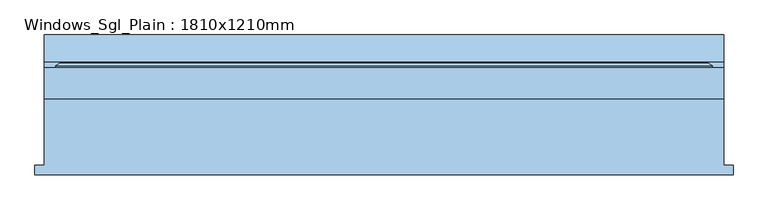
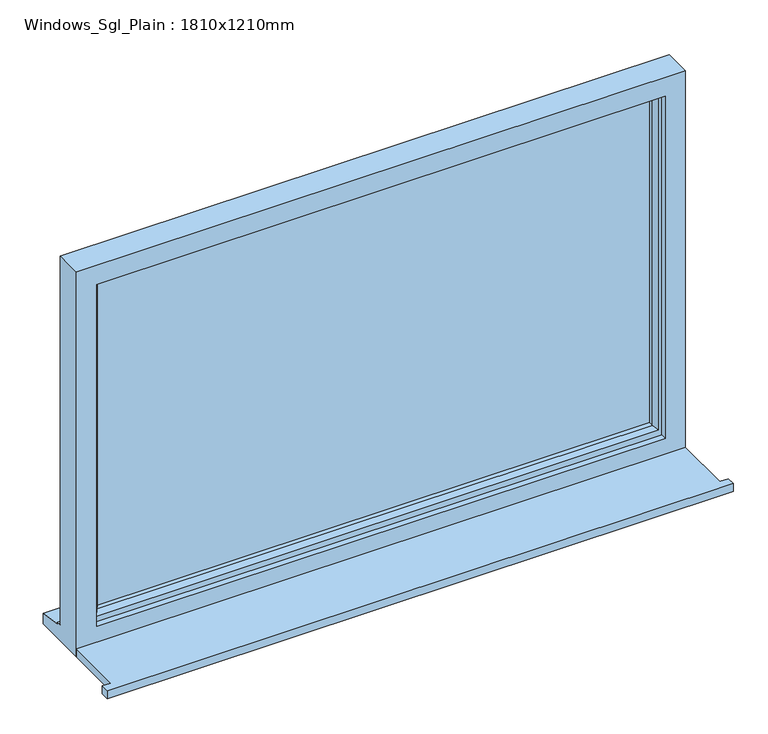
"""IFC4 building model written with IfcOpenShell, lengths in millimetres: window geometry, Windows_Sgl_Plain : 1810x1210mm."""

import ifcopenshell
import ifcopenshell.guid

model = None  # the IFC model being written
_history = None  # IfcOwnerHistory: only IFC2X3 demands one
_inside = {}  # id of a spatial element -> (the spatial element, [elements in it])
_under = {}  # id of a project, library or spatial element -> (it, [spatial elements below it])
_declared = {}  # id of a project -> (the project, [libraries it declares])
_typed = {}  # id of a type object -> (the type object, [elements of that type])
_made_of = {}  # id of a material, layer set ... -> (it, [elements and type objects made of it])


def new_model(schema):
    """Start an empty IFC model of exactly this schema.

    Asked for "IFC4X3", IfcOpenShell would pick the latest addendum, in which some entities
    have other attributes; the version numbers below select the first issue.
    IFC2X3 requires an IfcOwnerHistory on every rooted entity: one is made here for all.
    """
    global model, _history
    if schema == "IFC4X3":
        model = ifcopenshell.file(schema_version=(4, 3, 0, 0))
    else:
        model = ifcopenshell.file(schema=schema)
    _inside.clear()
    _under.clear()
    _declared.clear()
    _typed.clear()
    _made_of.clear()
    _history = None
    if model.schema == "IFC2X3":
        org = make("IfcOrganization", Name="unknown")
        user = make(
            "IfcPersonAndOrganization",
            ThePerson=make("IfcPerson", FamilyName="unknown"),
            TheOrganization=org,
        )
        app = make(
            "IfcApplication",
            ApplicationDeveloper=org,
            Version="unknown",
            ApplicationFullName="unknown",
            ApplicationIdentifier="unknown",
        )
        _history = make(
            "IfcOwnerHistory",
            OwningUser=user,
            OwningApplication=app,
            ChangeAction="ADDED",
            CreationDate=0,
        )
    return model


def make(cls, **values):
    """One entity of the class cls with the attributes given. An attribute that is None is left unset."""
    return model.create_entity(
        cls, **{name: value for name, value in values.items() if value is not None}
    )


def rooted(cls, **values):
    """An entity with a GlobalId (a new one), such as an element, a storey or a relation."""
    return make(cls, GlobalId=ifcopenshell.guid.new(), OwnerHistory=_history, **values)


def si_unit(unit_type, name, prefix=None):
    """IfcSIUnit, for example si_unit("LENGTHUNIT", "METRE", prefix="MILLI")."""
    return make("IfcSIUnit", UnitType=unit_type, Prefix=prefix, Name=name)


def assignment(units):
    """IfcUnitAssignment: the units of a project."""
    return None if units is None else make("IfcUnitAssignment", Units=units)


def point(xyz):
    """IfcCartesianPoint."""
    return None if xyz is None else make("IfcCartesianPoint", Coordinates=xyz)


def direction(xyz):
    """IfcDirection."""
    return None if xyz is None else make("IfcDirection", DirectionRatios=xyz)


def frame(location, z_axis=None, x_axis=None):
    """IfcAxis2Placement3D, a coordinate frame: its origin and axes. An axis left out is left unset."""
    return make(
        "IfcAxis2Placement3D",
        Location=point(location),
        Axis=direction(z_axis),
        RefDirection=direction(x_axis),
    )


def origin():
    """The frame at (0, 0, 0) with its axes left unset."""
    return frame((0.0, 0.0, 0.0))


def place(relative_to, where):
    """IfcLocalPlacement: puts the frame where relative to a parent placement (None: the world)."""
    return make(
        "IfcLocalPlacement", PlacementRelTo=relative_to, RelativePlacement=where
    )


def context(
    kind, dimensions, precision=None, world=None, true_north=None, identifier=None
):
    """IfcGeometricRepresentationContext, for example the 3D "Model" context."""
    return make(
        "IfcGeometricRepresentationContext",
        ContextIdentifier=identifier,
        ContextType=kind,
        CoordinateSpaceDimension=dimensions,
        Precision=precision,
        WorldCoordinateSystem=world,
        TrueNorth=true_north,
    )


def project(units=None, contexts=None):
    """IfcProject with its units and contexts."""
    return rooted(
        "IfcProject",
        Name="project",
        RepresentationContexts=contexts,
        UnitsInContext=assignment(units),
    )


def spatial(cls, under=None, at=None, **own):
    """A site, building, storey or space (cls), placed at a placement, below another one or the project."""
    s = rooted(cls, ObjectPlacement=at, **own)
    if under is not None:
        _under.setdefault(under.id(), (under, []))[1].append(s)
    return s


def polyline(points):
    """IfcPolyline through the points."""
    return make("IfcPolyline", Points=[point(p) for p in points])


def outline(outer, holes=None, kind="AREA"):
    """IfcArbitraryClosedProfileDef: a profile drawn as a closed curve; with holes, ...WithVoids."""
    if holes is None:
        return make("IfcArbitraryClosedProfileDef", ProfileType=kind, OuterCurve=outer)
    return make(
        "IfcArbitraryProfileDefWithVoids",
        ProfileType=kind,
        OuterCurve=outer,
        InnerCurves=holes,
    )


def extrude(swept, where, along, depth):
    """IfcExtrudedAreaSolid: the profile swept, set in the frame where, extruded along a direction by depth."""
    return make(
        "IfcExtrudedAreaSolid",
        SweptArea=swept,
        Position=where,
        ExtrudedDirection=direction(along),
        Depth=depth,
    )


def faces_of(points, faces, orient=None, outer=None):
    """IfcFace entities. A face is a list of loops; a loop is a list of indices into points, from 0.

    orient and outer hold one flag for each loop. By default every Orientation is true, the
    first loop of a face is its IfcFaceOuterBound and the others are IfcFaceBound.
    """
    made = []
    for i, loops in enumerate(faces):
        bounds = []
        for j, loop in enumerate(loops):
            is_outer = j == 0 if outer is None else outer[i][j]
            bounds.append(
                make(
                    "IfcFaceOuterBound" if is_outer else "IfcFaceBound",
                    Bound=make("IfcPolyLoop", Polygon=[points[k] for k in loop]),
                    Orientation=True if orient is None else orient[i][j],
                )
            )
        made.append(make("IfcFace", Bounds=bounds))
    return made


def faceted_brep(points, faces, orient=None, outer=None, voids=None):
    """IfcFacetedBrep: a solid bounded by flat faces; with voids (closed shells), ...WithVoids."""
    shared = [point(p) for p in points]
    hull = make("IfcClosedShell", CfsFaces=faces_of(shared, faces, orient, outer))
    if voids is None:
        return make("IfcFacetedBrep", Outer=hull)
    return make(
        "IfcFacetedBrepWithVoids",
        Outer=hull,
        Voids=[
            make(cls, CfsFaces=faces_of(shared, fs, o, b)) for cls, fs, o, b in voids
        ],
    )


def shape(context_of_items, identifier, shape_type, items):
    """IfcShapeRepresentation: the items that make up one representation, for example the "Body"."""
    return make(
        "IfcShapeRepresentation",
        ContextOfItems=context_of_items,
        RepresentationIdentifier=identifier,
        RepresentationType=shape_type,
        Items=items,
    )


def source(mapping_origin, context_of_items, identifier, shape_type, items):
    """IfcRepresentationMap: a shape defined once, which mapped items show again and again."""
    return make(
        "IfcRepresentationMap",
        MappingOrigin=mapping_origin,
        MappedRepresentation=shape(context_of_items, identifier, shape_type, items),
    )


def transform(
    local_origin,
    x_axis=None,
    y_axis=None,
    z_axis=None,
    scale=None,
    scale2=None,
    scale3=None,
    uniform=True,
):
    """IfcCartesianTransformationOperator3D, or its non-uniform kind. x_axis, y_axis, z_axis: its Axis1, 2, 3."""
    if uniform:
        return make(
            "IfcCartesianTransformationOperator3D",
            Axis1=direction(x_axis),
            Axis2=direction(y_axis),
            LocalOrigin=point(local_origin),
            Scale=scale,
            Axis3=direction(z_axis),
        )
    return make(
        "IfcCartesianTransformationOperator3DnonUniform",
        Axis1=direction(x_axis),
        Axis2=direction(y_axis),
        LocalOrigin=point(local_origin),
        Scale=scale,
        Axis3=direction(z_axis),
        Scale2=scale2,
        Scale3=scale3,
    )


def mapped(mapping_source, mapping_target):
    """IfcMappedItem: shows the shape of a source again, moved by a transform."""
    return make(
        "IfcMappedItem", MappingSource=mapping_source, MappingTarget=mapping_target
    )


def made_of(thing, what):
    """Note that an element or type object is made of a material, layer set ...; save() writes the relation."""
    if what is not None:
        _made_of.setdefault(what.id(), (what, []))[1].append(thing)
    return thing


def element(
    cls,
    number,
    at=None,
    inside=None,
    cuts=None,
    type_object=None,
    material=None,
    context=None,
    identifier="Body",
    shape_type=None,
    held_by="IfcProductDefinitionShape",
    body=None,
    shapes=None,
    **own,
):
    """One element of the class cls, such as IfcWall. Its Tag is "e" and its number.

    at: its placement. inside: the storey or other place that contains it. cuts: it is an
    opening in that element (IfcRelVoidsElement). A single representation is given by context,
    identifier, shape_type and body (its items); several are given by shapes. held_by: the class
    of the entity that holds the representations. save() writes the other relations.
    """
    e = rooted(cls, Tag="e%d" % number, ObjectPlacement=at, **own)
    if body is not None:
        shapes = [shape(context, identifier, shape_type, body)]
    if shapes is not None:
        e.Representation = make(held_by, Representations=shapes)
    if inside is not None:
        _inside.setdefault(inside.id(), (inside, []))[1].append(e)
    if cuts is not None:
        rooted(
            "IfcRelVoidsElement", RelatingBuildingElement=cuts, RelatedOpeningElement=e
        )
    if type_object is not None:
        _typed.setdefault(type_object.id(), (type_object, []))[1].append(e)
    return made_of(e, material)


def aggregate(whole, parts):
    """IfcRelAggregates: a whole, such as a stair, and the parts it consists of."""
    return rooted("IfcRelAggregates", RelatingObject=whole, RelatedObjects=parts)


def save(model, path):
    """Write the relations noted so far, then the file.

    IfcRelAggregates (storeys below a building ...), IfcRelContainedInSpatialStructure (elements
    in a storey), IfcRelDefinesByType, IfcRelAssociatesMaterial and IfcRelDeclares: one each for
    every whole, place, type object, material and project.
    """
    for whole, parts in _under.values():
        aggregate(whole, parts)
    for where, things in _inside.values():
        rooted(
            "IfcRelContainedInSpatialStructure",
            RelatedElements=things,
            RelatingStructure=where,
        )
    for kind, things in _typed.values():
        rooted("IfcRelDefinesByType", RelatedObjects=things, RelatingType=kind)
    for what, things in _made_of.values():
        rooted("IfcRelAssociatesMaterial", RelatedObjects=things, RelatingMaterial=what)
    for by, libraries in _declared.values():
        rooted("IfcRelDeclares", RelatingContext=by, RelatedDefinitions=libraries)
    model.write(path)


def windows_sgl_plain_1810x1210mm_b7899545(model_context):
    return source(origin(), model_context, "Body", "SolidModel", [
        extrude(outline(polyline([(-930.0, -171.5434322), (-930.0, -146.5434322), (-905.0, -146.5434322), (-905.0, 30.4565678), (905.0, 30.4565678), (905.0, -146.5434322), (930.0, -146.5434322), (930.0, -171.5434322), (-930.0, -171.5434322)])), frame((0.0, 0.0, 900.0), z_axis=(0.0, 0.0, 1.0), x_axis=(1.0, 0.0, 0.0)), (0.0, 0.0, 1.0), 25.0),
        faceted_brep([(-905.0, 30.4565678, 900.0), (905.0, 30.4565678, 900.0), (905.0, 30.4565678, 2110.0), (-905.0, 30.4565678, 2110.0), (-845.0, 30.4565678, 2050.0), (845.0, 30.4565678, 2050.0), (845.0, 30.4565678, 975.0), (-845.0, 30.4565678, 975.0), (-905.0, 113.4565678, 2110.0), (-905.0, 113.4565678, 951.0), (-905.0, 128.4565678, 949.68767), (-905.0, 128.4565678, 944.7449676), (-905.0, 200.9565678, 933.8088847), (-905.0, 200.9565678, 900.0), (905.0, 113.4565678, 2110.0), (905.0, 113.4565678, 951.0), (-865.0, 113.4565678, 2070.0), (-865.0, 113.4565678, 963.0), (865.0, 113.4565678, 963.0), (865.0, 113.4565678, 2070.0), (-865.0, 48.4565678, 2070.0), (-865.0, 48.4565678, 963.0), (865.0, 48.4565678, 2070.0), (865.0, 48.4565678, 963.0), (-845.0, 48.4565678, 2050.0), (-845.0, 48.4565678, 975.0), (845.0, 48.4565678, 975.0), (845.0, 48.4565678, 2050.0), (905.0, 200.9565678, 900.0), (905.0, 200.9565678, 933.8088847), (905.0, 128.4565678, 944.7449676), (905.0, 128.4565678, 949.68767)], [[[0, 1, 2, 3], [4, 5, 6, 7]], [[0, 3, 8, 9, 10, 11, 12, 13]], [[9, 8, 14, 15], [16, 17, 18, 19]], [[17, 16, 20, 21]], [[20, 22, 23, 21], [24, 25, 26, 27]], [[24, 4, 7, 25]], [[3, 2, 14, 8]], [[16, 19, 22, 20]], [[5, 4, 24, 27]], [[15, 14, 2, 1, 28, 29, 30, 31]], [[19, 18, 23, 22]], [[5, 27, 26, 6]], [[28, 1, 0, 13]], [[29, 28, 13, 12]], [[30, 29, 12, 11]], [[31, 30, 11, 10]], [[15, 31, 10, 9]], [[21, 23, 18, 17]], [[7, 6, 26, 25]]]),
        extrude(outline(polyline([(835.0, 77.4565678), (-835.0, 77.4565678), (-835.0, 101.4565678), (835.0, 101.4565678), (835.0, 77.4565678)])), frame((0.0, 0.0, 993.0), z_axis=(0.0, 0.0, 1.0), x_axis=(1.0, 0.0, 0.0)), (0.0, 0.0, 1.0), 1047.0),
        faceted_brep([(-875.0, 113.4565678, 2080.0), (-875.0, 119.2300705, 2080.0), (-875.0, 119.2300705, 953.0), (-875.0, 113.4565678, 953.0), (-865.0, 48.4565678, 2070.0), (-865.0, 113.4565678, 2070.0), (-865.0, 113.4565678, 963.0), (-865.0, 48.4565678, 963.0), (-825.0, 62.9494677, 2030.0), (-835.1480377, 48.4565678, 2040.1480377), (-835.1480377, 48.4565678, 992.8519623), (-825.0, 62.9494677, 1003.0), (-825.0, 77.4565678, 2030.0), (-825.0, 77.4565678, 1003.0), (-835.0, 101.4565678, 2040.0), (-835.0, 77.4565678, 2040.0), (-835.0, 77.4565678, 993.0), (-835.0, 101.4565678, 993.0), (-825.0, 119.2300705, 2030.0), (-825.0, 101.4565678, 2030.0), (-825.0, 101.4565678, 1003.0), (-825.0, 119.2300705, 1003.0), (-842.4457548, 125.0035732, 2047.4457548), (-842.4457548, 125.0035732, 985.5542452), (-864.2153903, 125.0035732, 2069.2153903), (-864.2153903, 125.0035732, 963.7846097), (875.0, 119.2300705, 953.0), (875.0, 113.4565678, 953.0), (865.0, 113.4565678, 963.0), (865.0, 48.4565678, 963.0), (835.1480377, 48.4565678, 992.8519623), (825.0, 62.9494677, 1003.0), (825.0, 77.4565678, 1003.0), (835.0, 77.4565678, 993.0), (835.0, 101.4565678, 993.0), (825.0, 101.4565678, 1003.0), (825.0, 119.2300705, 1003.0), (842.4457548, 125.0035732, 985.5542452), (864.2153903, 125.0035732, 963.7846097), (875.0, 119.2300705, 2080.0), (875.0, 113.4565678, 2080.0), (865.0, 113.4565678, 2070.0), (865.0, 48.4565678, 2070.0), (835.1480377, 48.4565678, 2040.1480377), (825.0, 62.9494677, 2030.0), (825.0, 77.4565678, 2030.0), (835.0, 77.4565678, 2040.0), (835.0, 101.4565678, 2040.0), (825.0, 101.4565678, 2030.0), (825.0, 119.2300705, 2030.0), (842.4457548, 125.0035732, 2047.4457548), (864.2153903, 125.0035732, 2069.2153903)], [[[0, 1, 2, 3]], [[4, 5, 6, 7]], [[8, 9, 10, 11]], [[12, 8, 11, 13]], [[14, 15, 16, 17]], [[18, 19, 20, 21]], [[22, 18, 21, 23]], [[1, 24, 25, 2]], [[3, 2, 26, 27]], [[7, 6, 28, 29]], [[11, 10, 30, 31]], [[13, 11, 31, 32]], [[17, 16, 33, 34]], [[21, 20, 35, 36]], [[23, 21, 36, 37]], [[2, 25, 38, 26]], [[27, 26, 39, 40]], [[29, 28, 41, 42]], [[31, 30, 43, 44]], [[32, 31, 44, 45]], [[34, 33, 46, 47]], [[36, 35, 48, 49]], [[37, 36, 49, 50]], [[26, 38, 51, 39]], [[40, 39, 1, 0]], [[3, 27, 40, 0], [5, 41, 28, 6]], [[42, 41, 5, 4]], [[7, 29, 42, 4], [9, 43, 30, 10]], [[44, 43, 9, 8]], [[45, 44, 8, 12]], [[15, 46, 33, 16], [13, 32, 45, 12]], [[47, 46, 15, 14]], [[17, 34, 47, 14], [19, 48, 35, 20]], [[49, 48, 19, 18]], [[50, 49, 18, 22]], [[24, 51, 38, 25], [23, 37, 50, 22]], [[39, 51, 24, 1]]]),
    ])


if __name__ == "__main__":
    model = new_model("IFC4")
    model_context = context("Model", 3, world=origin())
    ifc_project = project(units=[si_unit("LENGTHUNIT", "METRE", prefix="MILLI")], contexts=[model_context])
    site = spatial("IfcSite", under=ifc_project)
    building = spatial("IfcBuilding", under=site)
    placement = place(None, origin())
    windows_sgl_plain_1810x1210mm_shape = windows_sgl_plain_1810x1210mm_b7899545(model_context)
    element("IfcWindow", 1, ObjectType="Windows_Sgl_Plain : 1810x1210mm", at=placement, inside=building, context=model_context, shape_type="MappedRepresentation", body=[
        mapped(windows_sgl_plain_1810x1210mm_shape, transform((0.0, 0.0, 0.0), x_axis=(1.0, 0.0, 0.0), y_axis=(0.0, 1.0, 0.0), z_axis=(0.0, 0.0, 1.0))),
    ])
    save(model, "model.ifc")
